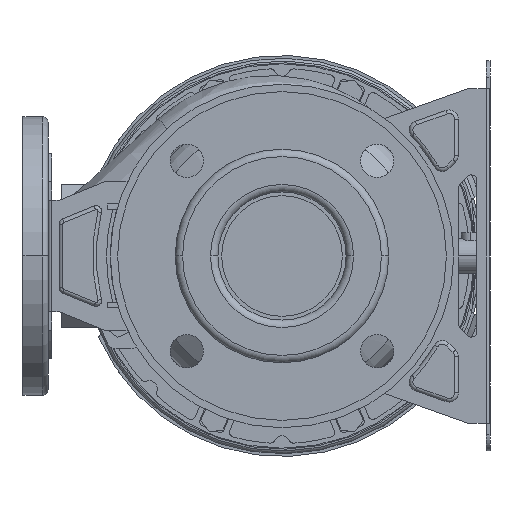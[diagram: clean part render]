
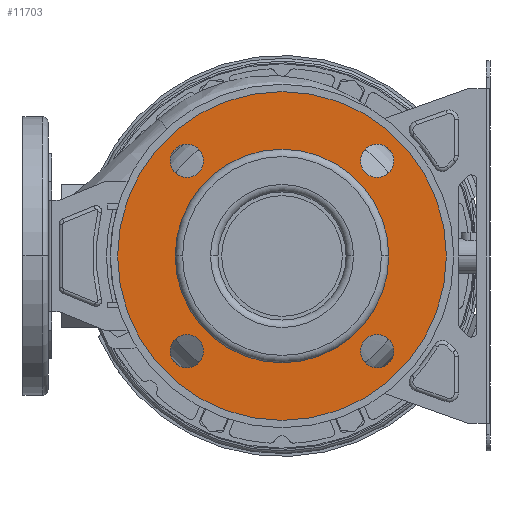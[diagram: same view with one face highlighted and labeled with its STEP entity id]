
A CAD part, left-side view. The second image highlights one B-rep face of the part: STEP entity #11703.
In plain terms, the highlighted planar face has unit normal (-1, 0, 0).
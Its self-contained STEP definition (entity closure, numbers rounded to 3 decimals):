
#11036=CARTESIAN_POINT('',(12.,0.,0.));
#11037=DIRECTION('',(-1.,0.,0.));
#11038=DIRECTION('',(0.,1.,0.));
#11039=AXIS2_PLACEMENT_3D('',#11036,#11037,#11038);
#11044=CARTESIAN_POINT('',(12.,0.,0.));
#11045=DIRECTION('',(1.,0.,0.));
#11046=DIRECTION('',(0.,1.,0.));
#11047=AXIS2_PLACEMENT_3D('',#11044,#11045,#11046);
#11052=CARTESIAN_POINT('',(12.,-51.265,51.265));
#11053=DIRECTION('',(1.,0.,0.));
#11054=DIRECTION('',(0.,1.,0.));
#11055=AXIS2_PLACEMENT_3D('',#11052,#11053,#11054);
#11060=CARTESIAN_POINT('',(12.,-51.265,51.265));
#11061=DIRECTION('',(1.,0.,0.));
#11062=DIRECTION('',(0.,-1.,0.));
#11063=AXIS2_PLACEMENT_3D('',#11060,#11061,#11062);
#11068=CARTESIAN_POINT('',(12.,-51.265,-51.265));
#11069=DIRECTION('',(1.,0.,0.));
#11070=DIRECTION('',(0.,0.,1.));
#11071=AXIS2_PLACEMENT_3D('',#11068,#11069,#11070);
#11076=CARTESIAN_POINT('',(12.,-51.265,-51.265));
#11077=DIRECTION('',(1.,0.,0.));
#11078=DIRECTION('',(0.,0.,-1.));
#11079=AXIS2_PLACEMENT_3D('',#11076,#11077,#11078);
#11084=CARTESIAN_POINT('',(12.,51.265,-51.265));
#11085=DIRECTION('',(1.,0.,0.));
#11086=DIRECTION('',(0.,-1.,0.));
#11087=AXIS2_PLACEMENT_3D('',#11084,#11085,#11086);
#11092=CARTESIAN_POINT('',(12.,51.265,-51.265));
#11093=DIRECTION('',(1.,0.,0.));
#11094=DIRECTION('',(0.,1.,0.));
#11095=AXIS2_PLACEMENT_3D('',#11092,#11093,#11094);
#11100=CARTESIAN_POINT('',(12.,51.265,51.265));
#11101=DIRECTION('',(1.,0.,0.));
#11102=DIRECTION('',(0.,0.,-1.));
#11103=AXIS2_PLACEMENT_3D('',#11100,#11101,#11102);
#11108=CARTESIAN_POINT('',(12.,51.265,51.265));
#11109=DIRECTION('',(1.,0.,0.));
#11110=DIRECTION('',(0.,0.,1.));
#11111=AXIS2_PLACEMENT_3D('',#11108,#11109,#11110);
#11116=CARTESIAN_POINT('',(12.,0.,0.));
#11117=DIRECTION('',(1.,0.,0.));
#11118=DIRECTION('',(0.,1.,0.));
#11119=AXIS2_PLACEMENT_3D('',#11116,#11117,#11118);
#11138=CARTESIAN_POINT('',(12.,0.,0.));
#11139=DIRECTION('',(-1.,0.,0.));
#11140=DIRECTION('',(0.,1.,0.));
#11141=AXIS2_PLACEMENT_3D('',#11138,#11139,#11140);
#11303=CARTESIAN_POINT('',(12.,88.5,0.));
#11305=VERTEX_POINT('',#11303);
#11306=CARTESIAN_POINT('',(12.,57.5,0.));
#11308=VERTEX_POINT('',#11306);
#11335=CARTESIAN_POINT('',(12.,-88.5,0.));
#11337=VERTEX_POINT('',#11335);
#11338=CARTESIAN_POINT('',(12.,-57.5,0.));
#11340=VERTEX_POINT('',#11338);
#11350=CARTESIAN_POINT('',(12.,-42.265,51.265));
#11351=CARTESIAN_POINT('',(12.,-60.265,51.265));
#11352=VERTEX_POINT('',#11350);
#11353=VERTEX_POINT('',#11351);
#11358=CARTESIAN_POINT('',(12.,-51.265,-42.265));
#11359=CARTESIAN_POINT('',(12.,-51.265,-60.265));
#11360=VERTEX_POINT('',#11358);
#11361=VERTEX_POINT('',#11359);
#11366=CARTESIAN_POINT('',(12.,42.265,-51.265));
#11367=CARTESIAN_POINT('',(12.,60.265,-51.265));
#11368=VERTEX_POINT('',#11366);
#11369=VERTEX_POINT('',#11367);
#11374=CARTESIAN_POINT('',(12.,51.265,42.265));
#11375=CARTESIAN_POINT('',(12.,51.265,60.265));
#11376=VERTEX_POINT('',#11374);
#11377=VERTEX_POINT('',#11375);
#11664=CARTESIAN_POINT('',(12.,0.,0.));
#11665=DIRECTION('',(1.,0.,0.));
#11666=DIRECTION('',(0.,-1.,0.));
#11667=AXIS2_PLACEMENT_3D('',#11664,#11665,#11666);
#11668=PLANE('',#11667);
#11669=ORIENTED_EDGE('',*,*,#11657,.F.);
#11670=ORIENTED_EDGE('',*,*,#11646,.T.);
#11671=EDGE_LOOP('',(#11669,#11670));
#11672=FACE_OUTER_BOUND('',#11671,.F.);
#11674=ORIENTED_EDGE('',*,*,#11673,.F.);
#11676=ORIENTED_EDGE('',*,*,#11675,.T.);
#11677=EDGE_LOOP('',(#11674,#11676));
#11678=FACE_BOUND('',#11677,.F.);
#11680=ORIENTED_EDGE('',*,*,#11679,.F.);
#11682=ORIENTED_EDGE('',*,*,#11681,.F.);
#11683=EDGE_LOOP('',(#11680,#11682));
#11684=FACE_BOUND('',#11683,.F.);
#11686=ORIENTED_EDGE('',*,*,#11685,.F.);
#11688=ORIENTED_EDGE('',*,*,#11687,.F.);
#11689=EDGE_LOOP('',(#11686,#11688));
#11690=FACE_BOUND('',#11689,.F.);
#11692=ORIENTED_EDGE('',*,*,#11691,.F.);
#11694=ORIENTED_EDGE('',*,*,#11693,.F.);
#11695=EDGE_LOOP('',(#11692,#11694));
#11696=FACE_BOUND('',#11695,.F.);
#11698=ORIENTED_EDGE('',*,*,#11697,.F.);
#11700=ORIENTED_EDGE('',*,*,#11699,.F.);
#11701=EDGE_LOOP('',(#11698,#11700));
#11702=FACE_BOUND('',#11701,.F.);
#11040=CIRCLE('',#11039,88.5);
#11048=CIRCLE('',#11047,88.5);
#11056=CIRCLE('',#11055,9.);
#11064=CIRCLE('',#11063,9.);
#11072=CIRCLE('',#11071,9.);
#11080=CIRCLE('',#11079,9.);
#11088=CIRCLE('',#11087,9.);
#11096=CIRCLE('',#11095,9.);
#11104=CIRCLE('',#11103,9.);
#11112=CIRCLE('',#11111,9.);
#11120=CIRCLE('',#11119,57.5);
#11142=CIRCLE('',#11141,57.5);
#11646=EDGE_CURVE('',#11305,#11337,#11048,.T.);
#11657=EDGE_CURVE('',#11305,#11337,#11040,.T.);
#11673=EDGE_CURVE('',#11308,#11340,#11120,.T.);
#11675=EDGE_CURVE('',#11308,#11340,#11142,.T.);
#11679=EDGE_CURVE('',#11352,#11353,#11056,.T.);
#11681=EDGE_CURVE('',#11353,#11352,#11064,.T.);
#11685=EDGE_CURVE('',#11360,#11361,#11072,.T.);
#11687=EDGE_CURVE('',#11361,#11360,#11080,.T.);
#11691=EDGE_CURVE('',#11368,#11369,#11088,.T.);
#11693=EDGE_CURVE('',#11369,#11368,#11096,.T.);
#11697=EDGE_CURVE('',#11376,#11377,#11104,.T.);
#11699=EDGE_CURVE('',#11377,#11376,#11112,.T.);
#11703=ADVANCED_FACE('',(#11672,#11678,#11684,#11690,#11696,#11702),#11668,.F.);
